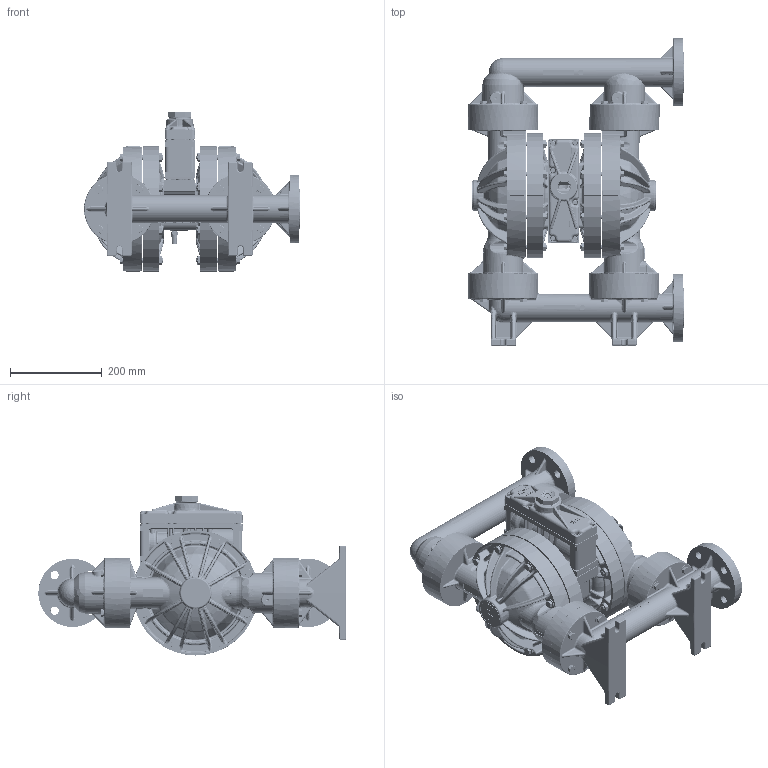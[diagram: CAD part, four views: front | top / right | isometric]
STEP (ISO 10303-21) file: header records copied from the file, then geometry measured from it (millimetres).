
FILE_DESCRIPTION((''),'2;1');
FILE_NAME('PS400_ADV_PLASTIC_PVD_SW0002','2014-10-13T',('nathan.hale'),(''),'PRO/ENGINEER BY PARAMETRIC TECHNOLOGY CORPORATION, 2011180','PRO/ENGINEER BY PARAMETRIC TECHNOLOGY CORPORATION, 2011180','');
FILE_SCHEMA(('CONFIG_CONTROL_DESIGN'));
Products named in the file (1): PS400_ADV_PLASTIC_PVD_SW0002
Bounding box: 471.07 x 669.9 x 348.14 mm (x, y, z)
Volume: 14151243.7 mm3; surface area: 2539257 mm2
Topology: 3 solids, 3 shells, 20270 faces, 51251 edges, 31774 vertices
Faces by surface type: plane 9828, bspline 3960, cylinder 2314, cone 1645, torus 1380, sphere 837, extrusion 306
Entity records: 977769 total; most frequent: CARTESIAN_POINT 521105, ORIENTED_EDGE 102432, DIRECTION 84129, EDGE_CURVE 51216, VERTEX_POINT 31774, VECTOR 28453, LINE 28147, AXIS2_PLACEMENT_3D 27838
